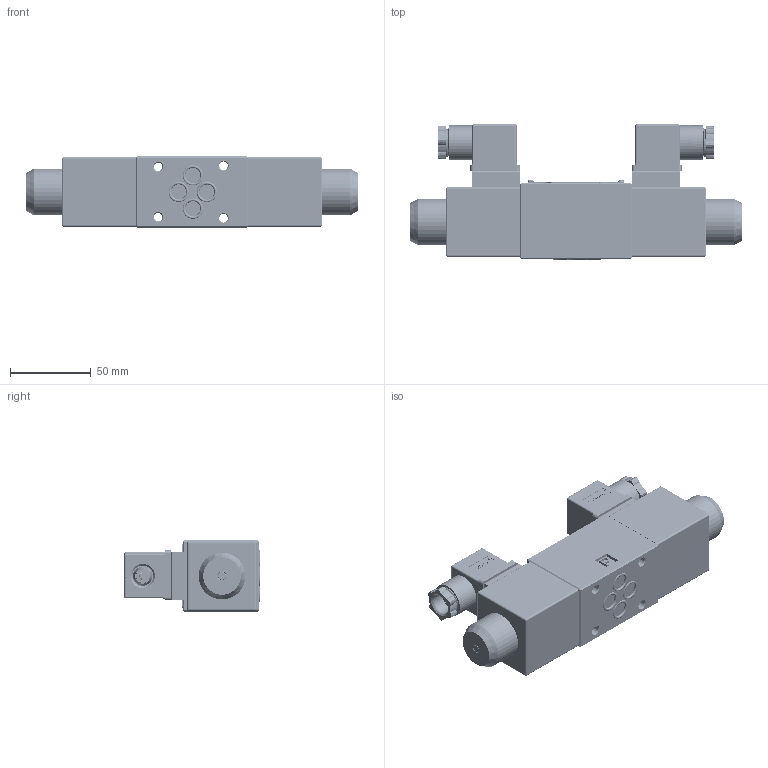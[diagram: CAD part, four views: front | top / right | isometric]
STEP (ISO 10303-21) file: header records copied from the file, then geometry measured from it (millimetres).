
FILE_DESCRIPTION(/* description */ (''),/* implementation_level */ '2;1');
FILE_NAME(/* name */ '4WE6H-6XJCW220N9Z4.stp',/* time_stamp */ '2024-04-24T16:14:26+08:00',/* author */ (''),/* organization */ (''),/* preprocessor_version */ 'ST-DEVELOPER v16.7',/* originating_system */ 'SIEMENS PLM Software NX 12.0',/* authorisation */ '');
FILE_SCHEMA (('AUTOMOTIVE_DESIGN { 1 0 10303 214 3 1 1 1 }'));
Products named in the file (1): 4WE6-6XJ交流电磁阀（三位阀）
Bounding box: 205.4 x 83.88 x 44 mm (x, y, z)
Volume: 214955.3 mm3; surface area: 126337.3 mm2
Topology: 87 solids, 101 shells, 3962 faces, 10854 edges, 7230 vertices
Faces by surface type: plane 3126, cylinder 476, extrusion 109, cone 108, bspline 94, torus 27, sphere 22
Full cylindrical faces by diameter (mm): 0.5 x4, 1.8 x4, 2 x18, 2.125 x6, 2.2 x2, 2.5 x8, 2.8 x6, 3 x6, 4.2 x2, 4.4 x2, 4.5 x6, 5 x6, 5.3 x4, 5.32 x2, 5.5 x4, 6.2 x2, 7.2 x2, 8.7 x2, 9 x2, 9.4 x4, 11 x2, 12 x8, 12.2 x2, 13 x2, 14.3 x2, 15 x2, 16.5 x22, 18 x2, 19 x2, 21.5 x2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
Entity records: 192866 total; most frequent: CARTESIAN_POINT 94533, ORIENTED_EDGE 20420, DIRECTION 17931, EDGE_CURVE 10210, VECTOR 8531, LINE 8422, VERTEX_POINT 6861, AXIS2_PLACEMENT_3D 4700
